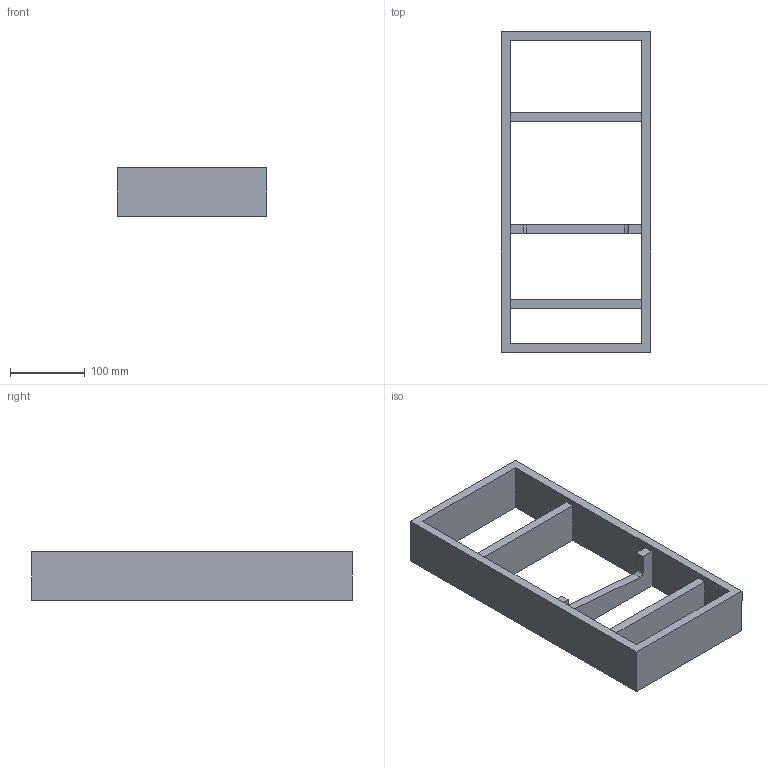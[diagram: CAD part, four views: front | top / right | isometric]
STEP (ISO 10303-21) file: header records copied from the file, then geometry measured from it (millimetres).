
FILE_DESCRIPTION (( 'STEP AP214' ), '1' );
FILE_NAME ('Vario Messer_Modul_H65_NL450_B200_ZE_Alu_Buche.step', '2010-10-07T06:11:51', ( 'grass' ), ( '' ), 'SwSTEP 2.0', 'SolidWorks 2010', '' );
FILE_SCHEMA (( 'AUTOMOTIVE_DESIGN' ));
Length unit declared in the file: millimetre
Products named in the file (1): Vario Messer_Modul_H65_NL450_B200_ZE_Alu_Buche
Bounding box: 200 x 429 x 65 mm (x, y, z)
Volume: 1260778.9 mm3; surface area: 248315.5 mm2
Topology: 1 solids, 1 shells, 25 faces, 78 edges, 52 vertices
Faces by surface type: plane 23, cylinder 2
Entity records: 906 total; most frequent: ORIENTED_EDGE 156, CARTESIAN_POINT 156, DIRECTION 134, EDGE_CURVE 78, VECTOR 74, LINE 74, VERTEX_POINT 52, AXIS2_PLACEMENT_3D 30
